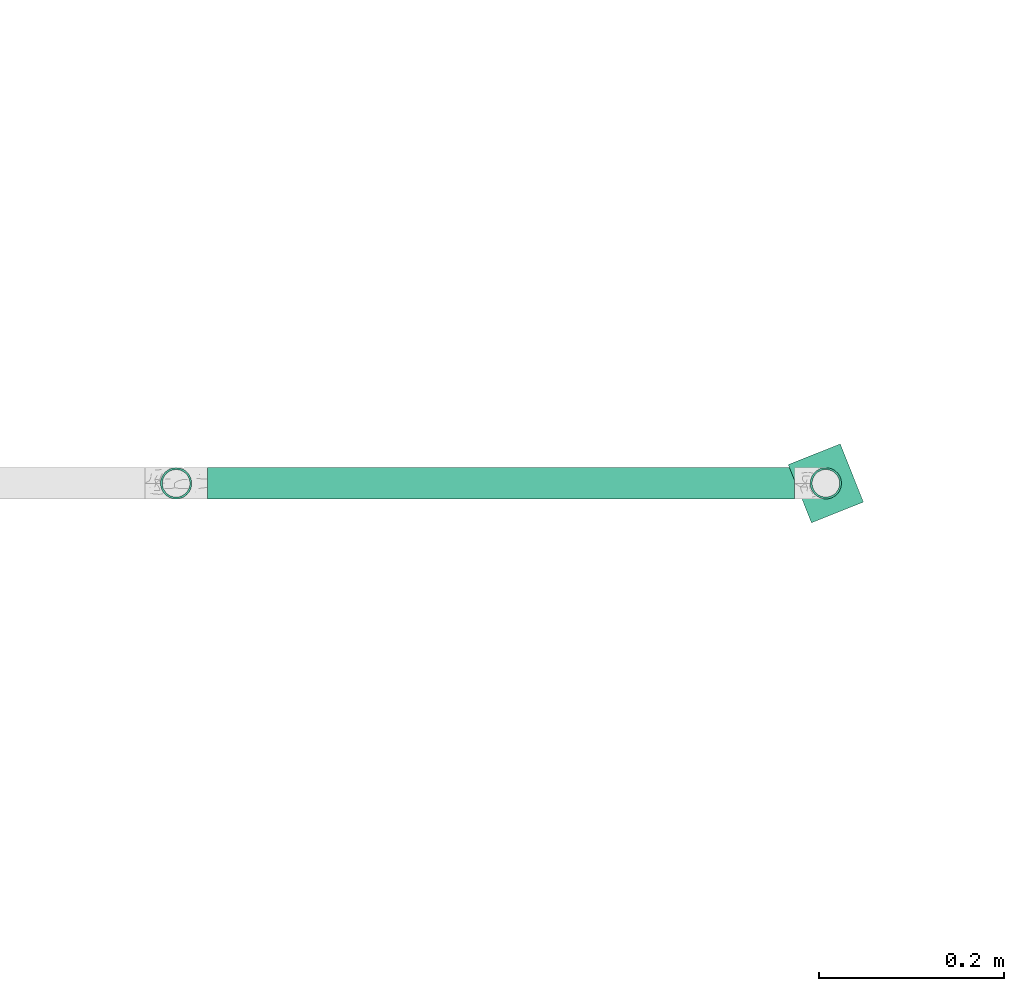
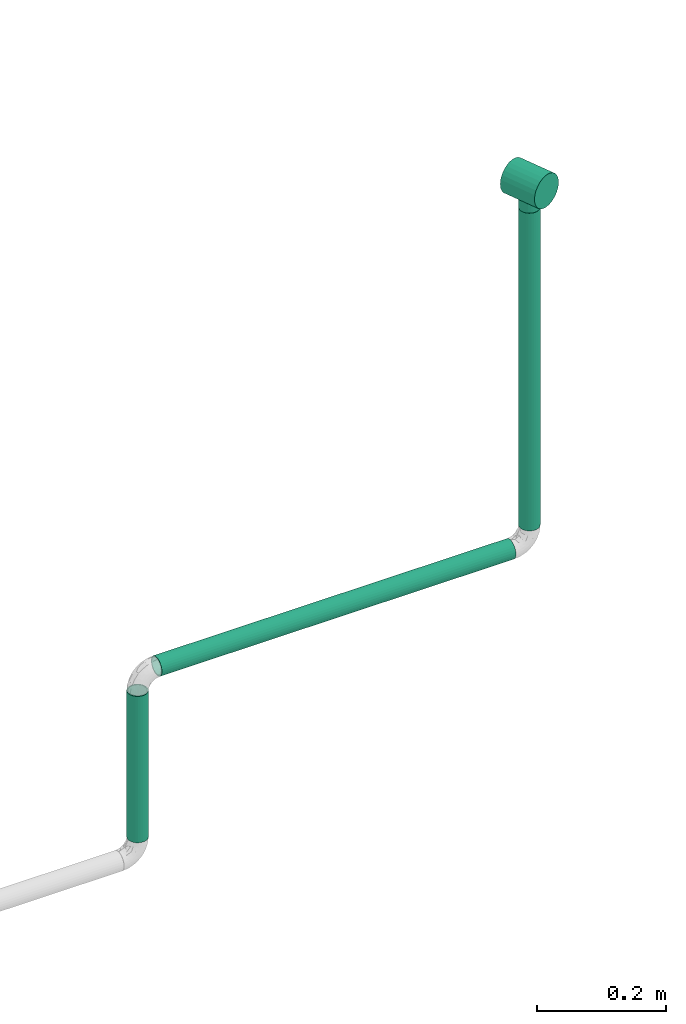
# One storey, part 7 of 63: 3 flow segments, 1 flow fitting.
"""IFC2X3 building model written with IfcOpenShell, lengths in millimetres."""

from ifc_helpers import new_model, entity, si_unit, converted_unit, derived_unit, direction, frame, origin_with_axes, origin_2d_with_axis, place, context, subcontext, project, spatial, hollow_circle, extrude, open_shell, surface_model, source, transform, mapped, type_object, element, save


model = new_model("IFC2X3")

# Units and contexts
model_context = context("Model", 3, precision=0.01, world=frame((0.0, 4.29681676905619e-09, 0.0)), true_north=direction((4.01073788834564e-13, 1.0)))
plan_context = context("Plan", 3, precision=0.01, world=frame((0.0, 4.29681676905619e-09, 0.0)), true_north=direction((4.01073788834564e-13, 1.0)))
body_context = subcontext(model_context, "Body", "Model", "MODEL_VIEW")
ifc_project = project(units=[converted_unit("PLANEANGLEUNIT", "DEGREE", entity("IfcPositiveLengthMeasure", 0.0174532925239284), si_unit("PLANEANGLEUNIT", "RADIAN"), dimensions=[0, 0, 0, 0, 0, 0, 0]), si_unit("AREAUNIT", "SQUARE_METRE"), si_unit("LENGTHUNIT", "METRE", prefix="MILLI"), si_unit("MASSUNIT", "GRAM", prefix="KILO"), si_unit("POWERUNIT", "WATT"), si_unit("PRESSUREUNIT", "PASCAL", prefix="KILO"), si_unit("FORCEUNIT", "NEWTON", prefix="KILO"), si_unit("ELECTRICVOLTAGEUNIT", "VOLT"), si_unit("ELECTRICCURRENTUNIT", "AMPERE"), si_unit("THERMODYNAMICTEMPERATUREUNIT", "DEGREE_CELSIUS"), si_unit("TIMEUNIT", "SECOND"), si_unit("VOLUMEUNIT", "CUBIC_METRE"), derived_unit("LINEARVELOCITYUNIT", [(si_unit("LENGTHUNIT", "METRE"), 1), (si_unit("TIMEUNIT", "SECOND"), -1)]), derived_unit("VOLUMETRICFLOWRATEUNIT", [(si_unit("VOLUMEUNIT", "CUBIC_METRE"), 1), (si_unit("TIMEUNIT", "SECOND"), -1)]), derived_unit("THERMALTRANSMITTANCEUNIT", [(si_unit("POWERUNIT", "WATT"), 1), (si_unit("THERMODYNAMICTEMPERATUREUNIT", "KELVIN"), -1), (si_unit("AREAUNIT", "SQUARE_METRE"), -1)]), derived_unit("SOUNDPRESSUREUNIT", [(si_unit("PRESSUREUNIT", "PASCAL"), 1)])], contexts=[model_context, plan_context])

# Site, building, storey
site_placement = place(None, frame((0.0, -4.29681676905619e-09, 0.0), z_axis=(0.0, 0.0, 1.0), x_axis=(1.0, 0.0, 0.0)))
site = spatial("IfcSite", under=ifc_project, at=site_placement, CompositionType="ELEMENT")
building_placement = place(site_placement, frame((0.0, 4.29681676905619e-09, 0.0), z_axis=(0.0, 0.0, 1.0), x_axis=(1.0, 0.0, 0.0)))
building = spatial("IfcBuilding", under=site, at=building_placement, Name="mc-building", CompositionType="ELEMENT")
storey_placement = place(building_placement, frame((0.0, 0.0, 207370.0), z_axis=(0.0, 0.0, 1.0), x_axis=(1.0, 0.0, 0.0)))
storey = spatial("IfcBuildingStorey", under=building, at=storey_placement, Name="Nivå E", CompositionType="ELEMENT", Elevation=207370.0)

# Flow fitting
pipe_fitting_type = type_object("IfcPipeFittingType", Name="magi_pipe_fe_tee_centric_90_NOR", PredefinedType="JUNCTION")
shared_shape_1 = source(origin_with_axes(), body_context, "Body", "SurfaceModel", [
    surface_model("IfcShellBasedSurfaceModel", [(-33.8, 15.1, -26.15397), (-33.8, 7.81634, -29.17096), (-33.8, 0.0, -30.2), (-33.8, 29.17096, -7.81634), (-33.8, 26.15397, -15.1), (-33.8, 21.35462, -21.35462), (-33.8, 30.2, 0.0), (-33.8, -30.2, 0.0), (-33.8, -15.1, -26.15397), (-33.8, -21.35462, -21.35462), (-33.8, -7.81634, -29.17096), (-33.8, -26.15397, -15.1), (-33.8, -29.17096, -7.81634), (-33.8, 26.15397, 15.1), (-33.8, 29.17096, 7.81634), (-33.8, 15.1, 26.15397), (-33.8, -21.35462, 21.35462), (-33.8, 21.35462, 21.35462), (-33.8, 7.81634, 29.17096), (-33.8, -29.17096, 7.81634), (-33.8, -26.15397, 15.1), (-33.8, -7.81634, 29.17096), (-33.8, 0.0, 30.2), (-33.8, -15.1, 26.15397), (33.8, 29.17096, -7.81634), (33.8, 0.0, -30.2), (33.8, 7.81634, -29.17096), (33.8, 21.35462, -21.35462), (33.8, 15.1, -26.15397), (33.8, 26.15397, -15.1), (33.8, -30.2, 0.0), (33.8, -7.81634, -29.17096), (33.8, -21.35462, -21.35462), (33.8, -15.1, -26.15397), (33.8, -29.17096, -7.81634), (33.8, -26.15397, -15.1), (33.8, 30.2, 0.0), (33.8, 29.17096, 7.81634), (33.8, 26.15397, 15.1), (33.8, -29.17096, 7.81634), (33.8, 15.1, 26.15397), (33.8, 7.81634, 29.17096), (33.8, 21.35462, 21.35462), (33.8, -21.35462, 21.35462), (33.8, -26.15397, 15.1), (33.8, -15.1, 26.15397), (33.8, 0.0, 30.2), (33.8, -7.81634, 29.17096), (33.8, -29.68548, 3.90817), (15.846, -29.62306, 5.87488), (16.373, -29.91153, 2.93744), (12.91037, -28.16217, 10.90561), (2.99213, -25.2068, 16.63301), (16.9, -30.2, 0.0), (33.8, -27.66246, 11.45817), (8.50854, -26.43531, 14.60187), (-8.51006, -26.43579, 14.60099), (-33.8, -27.66246, 11.45817), (-12.91447, -28.16405, 10.90075), (-15.84655, -29.62335, 5.87341), (-33.8, -29.68548, 3.90817), (-16.37327, -29.91168, 2.93671), (-16.9, -30.2, 0.0), (-2.99705, -25.20739, 16.63213), (2.99213, -25.2068, -16.63301), (-16.37327, -29.91168, -2.93671), (8.50854, -26.43531, -14.60187), (33.8, -27.66246, -11.45817), (16.373, -29.91153, -2.93744), (-33.8, -29.68548, -3.90817), (-15.84655, -29.62335, -5.87341), (15.846, -29.62306, -5.87488), (12.91037, -28.16217, -10.90561), (33.8, -29.68548, -3.90817), (-2.99705, -25.20739, -16.63213), (-8.51006, -26.43579, -14.60099), (-12.91447, -28.16405, -10.90075), (-33.8, -27.66246, -11.45817), (4.37404, -45.3, -16.32415), (-16.9, -45.3, 0.0), (0.0, -45.3, -16.9), (14.63583, -45.3, -8.45), (8.45, -45.3, -14.63583), (16.32415, -45.3, -4.37404), (11.9501, -45.3, -11.9501), (-11.9501, -45.3, -11.9501), (-8.45, -45.3, -14.63583), (-4.37404, -45.3, -16.32415), (-14.63583, -45.3, -8.45), (-16.32415, -45.3, -4.37404), (16.9, -45.3, 0.0), (8.45, -45.3, 14.63583), (16.32415, -45.3, 4.37404), (14.63583, -45.3, 8.45), (-8.45, -45.3, 14.63583), (11.9501, -45.3, 11.9501), (4.37404, -45.3, 16.32415), (-16.32415, -45.3, 4.37404), (-11.9501, -45.3, 11.9501), (-14.63583, -45.3, 8.45), (0.0, -45.3, 16.9), (-4.37404, -45.3, 16.32415), (-5.75355, -25.82159, 15.61656), (-0.00246, -25.20709, 16.63257), (5.75034, -25.82105, 15.61744), (5.75034, -25.82105, -15.61744), (-0.00246, -25.20709, -16.63257), (-5.75355, -25.82159, -15.61656)], [open_shell([[[0, 1, 2]], [[3, 0, 2]], [[0, 3, 4]], [[5, 0, 4]], [[6, 2, 7]], [[8, 9, 10]], [[9, 2, 10]], [[11, 12, 9]], [[7, 9, 12]], [[9, 7, 2]], [[6, 3, 2]], [[13, 14, 6]], [[7, 15, 13]], [[7, 16, 15]], [[17, 13, 15]], [[18, 15, 16]], [[19, 20, 7]], [[7, 20, 16]], [[21, 22, 23]], [[16, 23, 22]], [[16, 22, 18]], [[7, 13, 6]], [[24, 25, 26]], [[27, 26, 28]], [[29, 24, 26]], [[29, 26, 27]], [[25, 24, 30]], [[31, 32, 33]], [[32, 31, 34]], [[32, 34, 35]], [[34, 31, 30]], [[31, 25, 30]], [[24, 36, 30]], [[36, 37, 38]], [[39, 36, 38]], [[40, 41, 38]], [[40, 38, 42]], [[43, 38, 41]], [[39, 43, 44]], [[39, 38, 43]], [[45, 46, 47]], [[46, 45, 43]], [[41, 46, 43]], [[36, 39, 30]], [[48, 39, 49]], [[30, 48, 50]], [[39, 51, 49]], [[44, 43, 52]], [[30, 50, 53]], [[51, 54, 55]], [[52, 55, 44]], [[48, 49, 50]], [[43, 16, 52]], [[55, 54, 44]], [[56, 57, 58]], [[59, 60, 61]], [[62, 61, 7]], [[59, 58, 19]], [[56, 63, 20]], [[51, 39, 54]], [[20, 57, 56]], [[20, 63, 16]], [[58, 57, 19]], [[63, 52, 16]], [[7, 61, 60]], [[59, 19, 60]], [[43, 23, 16]], [[22, 47, 46]], [[21, 45, 47]], [[18, 46, 41]], [[38, 37, 14]], [[17, 40, 42]], [[13, 42, 38]], [[41, 40, 15]], [[6, 37, 36]], [[23, 45, 21]], [[21, 47, 22]], [[18, 22, 46]], [[41, 15, 18]], [[15, 40, 17]], [[13, 17, 42]], [[14, 13, 38]], [[37, 6, 14]], [[45, 23, 43]], [[4, 24, 29]], [[3, 36, 24]], [[5, 29, 27]], [[25, 31, 10]], [[1, 28, 26]], [[2, 26, 25]], [[27, 28, 0]], [[8, 31, 33]], [[6, 36, 3]], [[3, 24, 4]], [[5, 4, 29]], [[27, 0, 5]], [[0, 28, 1]], [[2, 1, 26]], [[10, 2, 25]], [[31, 8, 10]], [[33, 9, 8]], [[32, 35, 64]], [[7, 65, 62]], [[66, 64, 35]], [[67, 66, 35]], [[32, 64, 9]], [[53, 68, 30]], [[69, 70, 65]], [[71, 72, 34]], [[71, 73, 68]], [[66, 67, 72]], [[34, 72, 67]], [[74, 75, 11]], [[76, 12, 77]], [[11, 9, 74]], [[76, 77, 75]], [[74, 9, 64]], [[76, 70, 12]], [[71, 34, 73]], [[70, 69, 12]], [[65, 7, 69]], [[30, 68, 73]], [[77, 11, 75]], [[32, 9, 33]], [[78, 79, 80]], [[81, 78, 82]], [[81, 83, 78]], [[81, 82, 84]], [[79, 78, 83]], [[80, 85, 86]], [[86, 87, 80]], [[88, 79, 89]], [[85, 80, 88]], [[79, 88, 80]], [[83, 90, 79]], [[91, 90, 92]], [[91, 92, 93]], [[94, 79, 91]], [[91, 93, 95]], [[94, 91, 96]], [[97, 98, 99]], [[98, 97, 94]], [[94, 100, 101]], [[97, 79, 94]], [[96, 100, 94]], [[91, 79, 90]], [[97, 61, 79]], [[58, 99, 98]], [[97, 99, 59]], [[98, 94, 56]], [[61, 62, 79]], [[59, 99, 58]], [[101, 63, 102]], [[56, 58, 98]], [[100, 52, 103]], [[91, 104, 96]], [[100, 96, 52]], [[50, 49, 92]], [[50, 90, 53]], [[104, 91, 55]], [[102, 94, 101]], [[102, 56, 94]], [[100, 63, 101]], [[97, 59, 61]], [[55, 91, 95]], [[95, 51, 55]], [[52, 96, 104]], [[92, 49, 93]], [[90, 50, 92]], [[93, 49, 51]], [[93, 51, 95]], [[103, 63, 100]], [[83, 68, 90]], [[72, 81, 84]], [[83, 81, 71]], [[84, 82, 66]], [[68, 53, 90]], [[71, 81, 72]], [[78, 64, 105]], [[66, 72, 84]], [[80, 74, 106]], [[86, 107, 87]], [[65, 70, 89]], [[105, 82, 78]], [[105, 66, 82]], [[75, 86, 85]], [[83, 71, 68]], [[70, 88, 89]], [[65, 79, 62]], [[85, 88, 76]], [[80, 64, 78]], [[87, 107, 74]], [[74, 80, 87]], [[75, 107, 86]], [[75, 85, 76]], [[76, 88, 70]], [[79, 65, 89]], [[106, 64, 80]]])]),
])
flow_fitting_placement = place(storey_placement, frame((720721.14734, 436180.95076, 7130.0), z_axis=(0.929249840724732, 0.369451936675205, 0.0), x_axis=(-0.369451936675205, 0.929249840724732, 0.0)))
element("IfcFlowFitting", 1, at=flow_fitting_placement, inside=storey, type_object=pipe_fitting_type, Name="magi_pipe_fe_tee_centric_90_NOR", context=body_context, shape_type="MappedRepresentation", body=[
    mapped(shared_shape_1, transform((0.0, 0.0, 0.0), scale=1.0)),
])

# Flow segments
pipe_segment_type = type_object("IfcPipeSegmentType", Name="Stålrør normaltykke", PredefinedType="RIGIDSEGMENT")
shared_shape_2 = source(origin_with_axes(), body_context, "Body", "SweptSolid", [
    extrude(hollow_circle(Radius=16.9, WallThickness=2.0, at=origin_2d_with_axis()), frame((0.0, 0.0, 0.0), z_axis=(1.0, 0.0, 0.0), x_axis=(0.0, 1.0, 0.0)), (0.0, 0.0, 1.0), 277.0),
])
flow_segment_1_placement = place(storey_placement, frame((720020.0, 436180.95076, 6139.20040999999), z_axis=(-1.0, 0.0, 0.0), x_axis=(0.0, 0.0, 1.0)))
element("IfcFlowSegment", 2, at=flow_segment_1_placement, inside=storey, type_object=pipe_segment_type, Name="Stålrør normaltykke", context=body_context, shape_type="MappedRepresentation", body=[
    mapped(shared_shape_2, transform((0.0, 0.0, 0.0), scale=1.0)),
])
shared_shape_3 = source(origin_with_axes(), body_context, "Body", "SweptSolid", [
    extrude(hollow_circle(Radius=16.9, WallThickness=2.0, at=origin_2d_with_axis()), frame((0.0, 0.0, 0.0), z_axis=(1.0, 0.0, 0.0), x_axis=(0.0, 1.0, 0.0)), (0.0, 0.0, 1.0), 633.5),
])
flow_segment_2_placement = place(storey_placement, frame((720687.34734, 436180.95076, 6450.0), z_axis=(0.0, 0.0, 1.0), x_axis=(-1.0, 0.0, 0.0)))
element("IfcFlowSegment", 3, at=flow_segment_2_placement, inside=storey, type_object=pipe_segment_type, Name="Stålrør normaltykke", context=body_context, shape_type="MappedRepresentation", body=[
    mapped(shared_shape_3, transform((0.0, 0.0, 0.0), scale=1.0)),
])
shared_shape_4 = source(origin_with_axes(), body_context, "Body", "SweptSolid", [
    extrude(hollow_circle(Radius=16.9, WallThickness=2.0, at=origin_2d_with_axis()), frame((0.0, 0.0, 0.0), z_axis=(1.0, 0.0, 0.0), x_axis=(0.0, 1.0, 0.0)), (0.0, 0.0, 1.0), 600.9),
])
flow_segment_3_placement = place(storey_placement, frame((720721.14734, 436180.95076, 7084.70000000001), z_axis=(-0.929249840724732, -0.369451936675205, 0.0), x_axis=(0.0, 0.0, -1.0)))
element("IfcFlowSegment", 4, at=flow_segment_3_placement, inside=storey, type_object=pipe_segment_type, Name="Stålrør normaltykke", context=body_context, shape_type="MappedRepresentation", body=[
    mapped(shared_shape_4, transform((0.0, 0.0, 0.0), scale=1.0)),
])

save(model, "model.ifc")
